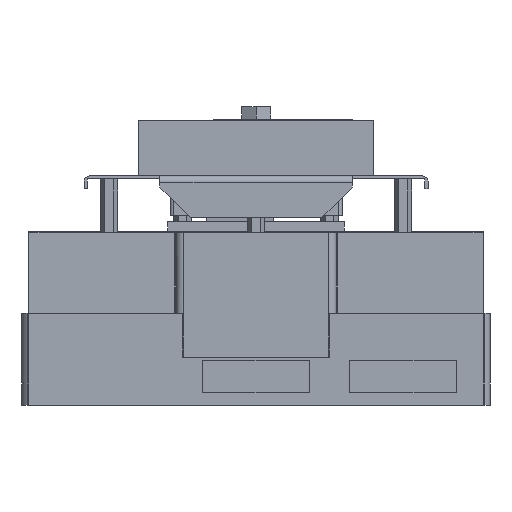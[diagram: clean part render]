
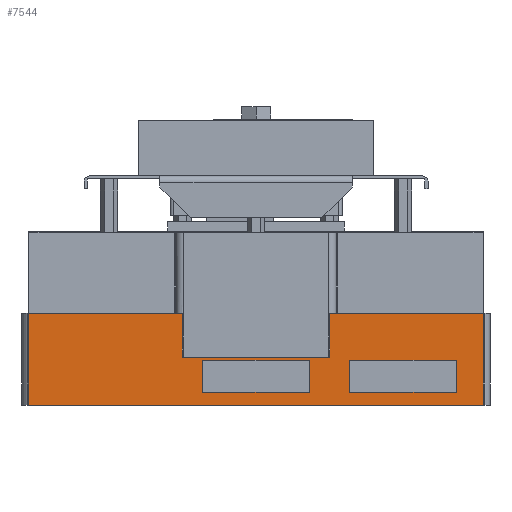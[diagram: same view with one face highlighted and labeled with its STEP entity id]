
A CAD part, front view. The second image highlights one B-rep face of the part: STEP entity #7544.
In plain terms, the highlighted planar face has unit normal (0, -1, 0).
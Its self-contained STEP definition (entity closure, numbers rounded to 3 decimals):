
#30 = CARTESIAN_POINT ( 'NONE',  ( 0., 0., 86. ) ) ;
#106 = CARTESIAN_POINT ( 'NONE',  ( 0., 0., 86. ) ) ;
#126 = VERTEX_POINT ( 'NONE', #3511 ) ;
#168 = LINE ( 'NONE', #4351, #803 ) ;
#240 = DIRECTION ( 'NONE',  ( 0., 0., 1. ) ) ;
#258 = DIRECTION ( 'NONE',  ( 0., 1., 0. ) ) ;
#302 = CARTESIAN_POINT ( 'NONE',  ( 281.3, 0., 45. ) ) ;
#348 = LINE ( 'NONE', #106, #8428 ) ;
#390 = PLANE ( 'NONE',  #4865 ) ;
#397 = EDGE_CURVE ( 'NONE', #3216, #7175, #8426, .T. ) ;
#467 = DIRECTION ( 'NONE',  ( 0., 0., 1. ) ) ;
#797 = EDGE_CURVE ( 'NONE', #5861, #126, #2017, .T. ) ;
#803 = VECTOR ( 'NONE', #1347, 1000. ) ;
#848 = ORIENTED_EDGE ( 'NONE', *, *, #4763, .T. ) ;
#933 = VERTEX_POINT ( 'NONE', #2014 ) ;
#952 = CARTESIAN_POINT ( 'NONE',  ( 425., 0., 315. ) ) ;
#980 = EDGE_CURVE ( 'NONE', #7313, #5861, #996, .T. ) ;
#996 = LINE ( 'NONE', #5904, #1218 ) ;
#1017 = DIRECTION ( 'NONE',  ( 0., 0., -1. ) ) ;
#1108 = EDGE_CURVE ( 'NONE', #126, #4538, #348, .T. ) ;
#1133 = EDGE_LOOP ( 'NONE', ( #4886, #848, #8056, #1267, #2413, #4866, #2860, #7813, #3504, #4652 ) ) ;
#1159 = VERTEX_POINT ( 'NONE', #4925 ) ;
#1218 = VECTOR ( 'NONE', #6437, 1000. ) ;
#1219 = LINE ( 'NONE', #6605, #2257 ) ;
#1267 = ORIENTED_EDGE ( 'NONE', *, *, #6893, .T. ) ;
#1274 = VERTEX_POINT ( 'NONE', #5766 ) ;
#1347 = DIRECTION ( 'NONE',  ( 0., 0., 1. ) ) ;
#1469 = EDGE_CURVE ( 'NONE', #5920, #7245, #2565, .T. ) ;
#1529 = DIRECTION ( 'NONE',  ( -1., 0., 0. ) ) ;
#1542 = DIRECTION ( 'NONE',  ( 0., 0., 1. ) ) ;
#1611 = VECTOR ( 'NONE', #3062, 1000. ) ;
#1613 = CARTESIAN_POINT ( 'NONE',  ( 262.5, 0., 12. ) ) ;
#1654 = CARTESIAN_POINT ( 'NONE',  ( 262.5, 0., 32. ) ) ;
#1673 = EDGE_CURVE ( 'NONE', #7167, #1274, #1943, .T. ) ;
#1817 = VECTOR ( 'NONE', #1542, 1000. ) ;
#1876 = EDGE_CURVE ( 'NONE', #7256, #8321, #2969, .T. ) ;
#1887 = CARTESIAN_POINT ( 'NONE',  ( 262.5, 0., 12. ) ) ;
#1911 = EDGE_CURVE ( 'NONE', #4477, #7167, #2973, .T. ) ;
#1943 = LINE ( 'NONE', #8865, #2056 ) ;
#1959 = CARTESIAN_POINT ( 'NONE',  ( 143.7, 0., 45. ) ) ;
#2014 = CARTESIAN_POINT ( 'NONE',  ( 425., 0., 86. ) ) ;
#2017 = LINE ( 'NONE', #3389, #1817 ) ;
#2056 = VECTOR ( 'NONE', #4144, 1000. ) ;
#2086 = VERTEX_POINT ( 'NONE', #1887 ) ;
#2172 = VECTOR ( 'NONE', #1529, 1000. ) ;
#2257 = VECTOR ( 'NONE', #3587, 1000. ) ;
#2359 = LINE ( 'NONE', #3706, #6428 ) ;
#2401 = DIRECTION ( 'NONE',  ( 0., 0., 1. ) ) ;
#2413 = ORIENTED_EDGE ( 'NONE', *, *, #1911, .T. ) ;
#2485 = EDGE_LOOP ( 'NONE', ( #7545, #3754, #3286, #2852 ) ) ;
#2541 = VECTOR ( 'NONE', #8165, 1000. ) ;
#2565 = LINE ( 'NONE', #6282, #2172 ) ;
#2598 = ORIENTED_EDGE ( 'NONE', *, *, #6460, .T. ) ;
#2621 = VECTOR ( 'NONE', #467, 1000. ) ;
#2738 = FACE_OUTER_BOUND ( 'NONE', #1133, .T. ) ;
#2772 = CARTESIAN_POINT ( 'NONE',  ( 162.5, 0., 32. ) ) ;
#2795 = ORIENTED_EDGE ( 'NONE', *, *, #3308, .F. ) ;
#2852 = ORIENTED_EDGE ( 'NONE', *, *, #6416, .T. ) ;
#2860 = ORIENTED_EDGE ( 'NONE', *, *, #4102, .F. ) ;
#2969 = LINE ( 'NONE', #3346, #2621 ) ;
#2973 = LINE ( 'NONE', #4594, #3010 ) ;
#3010 = VECTOR ( 'NONE', #3758, 1000. ) ;
#3059 = CARTESIAN_POINT ( 'NONE',  ( 425., 0., 86. ) ) ;
#3062 = DIRECTION ( 'NONE',  ( 1., 0., 0. ) ) ;
#3182 = LINE ( 'NONE', #1654, #1611 ) ;
#3216 = VERTEX_POINT ( 'NONE', #3473 ) ;
#3286 = ORIENTED_EDGE ( 'NONE', *, *, #3657, .T. ) ;
#3308 = EDGE_CURVE ( 'NONE', #2086, #3820, #3963, .T. ) ;
#3343 = CARTESIAN_POINT ( 'NONE',  ( 142.839, 0., 86. ) ) ;
#3346 = CARTESIAN_POINT ( 'NONE',  ( 162.5, 0., 12. ) ) ;
#3370 = LINE ( 'NONE', #3059, #4463 ) ;
#3389 = CARTESIAN_POINT ( 'NONE',  ( 281.3, 0., 45. ) ) ;
#3473 = CARTESIAN_POINT ( 'NONE',  ( 400., 0., 12. ) ) ;
#3495 = CARTESIAN_POINT ( 'NONE',  ( 262.5, 0., 32. ) ) ;
#3504 = ORIENTED_EDGE ( 'NONE', *, *, #1108, .F. ) ;
#3508 = LINE ( 'NONE', #7668, #6182 ) ;
#3511 = CARTESIAN_POINT ( 'NONE',  ( 281.3, 0., 86. ) ) ;
#3587 = DIRECTION ( 'NONE',  ( -1., 0., 0. ) ) ;
#3628 = DIRECTION ( 'NONE',  ( 0., 0., 1. ) ) ;
#3657 = EDGE_CURVE ( 'NONE', #6057, #1159, #3508, .T. ) ;
#3706 = CARTESIAN_POINT ( 'NONE',  ( 400., 0., 32. ) ) ;
#3754 = ORIENTED_EDGE ( 'NONE', *, *, #7523, .F. ) ;
#3758 = DIRECTION ( 'NONE',  ( 0., 0., -1. ) ) ;
#3796 = EDGE_CURVE ( 'NONE', #7256, #2086, #5618, .T. ) ;
#3820 = VERTEX_POINT ( 'NONE', #3495 ) ;
#3963 = LINE ( 'NONE', #1613, #4921 ) ;
#4102 = EDGE_CURVE ( 'NONE', #933, #1274, #6871, .T. ) ;
#4128 = ORIENTED_EDGE ( 'NONE', *, *, #1876, .T. ) ;
#4144 = DIRECTION ( 'NONE',  ( 1., 0., 0. ) ) ;
#4153 = CARTESIAN_POINT ( 'NONE',  ( 262.5, 0., 12. ) ) ;
#4351 = CARTESIAN_POINT ( 'NONE',  ( 143.7, 0., 45. ) ) ;
#4368 = EDGE_CURVE ( 'NONE', #933, #4538, #1219, .T. ) ;
#4393 = CARTESIAN_POINT ( 'NONE',  ( 282.161, 0., 86. ) ) ;
#4463 = VECTOR ( 'NONE', #4889, 1000. ) ;
#4477 = VERTEX_POINT ( 'NONE', #30 ) ;
#4538 = VERTEX_POINT ( 'NONE', #4393 ) ;
#4594 = CARTESIAN_POINT ( 'NONE',  ( 0., 0., 315. ) ) ;
#4652 = ORIENTED_EDGE ( 'NONE', *, *, #797, .F. ) ;
#4763 = EDGE_CURVE ( 'NONE', #7313, #5920, #168, .T. ) ;
#4764 = FACE_BOUND ( 'NONE', #8646, .T. ) ;
#4865 = AXIS2_PLACEMENT_3D ( 'NONE', #7698, #258, #240 ) ;
#4866 = ORIENTED_EDGE ( 'NONE', *, *, #1673, .T. ) ;
#4886 = ORIENTED_EDGE ( 'NONE', *, *, #980, .F. ) ;
#4889 = DIRECTION ( 'NONE',  ( -1., 0., 0. ) ) ;
#4921 = VECTOR ( 'NONE', #2401, 1000. ) ;
#4925 = CARTESIAN_POINT ( 'NONE',  ( 300., 0., 32. ) ) ;
#5045 = DIRECTION ( 'NONE',  ( 1., 0., 0. ) ) ;
#5202 = FACE_BOUND ( 'NONE', #2485, .T. ) ;
#5354 = ORIENTED_EDGE ( 'NONE', *, *, #3796, .F. ) ;
#5511 = VECTOR ( 'NONE', #5611, 1000. ) ;
#5611 = DIRECTION ( 'NONE',  ( 1., 0., 0. ) ) ;
#5618 = LINE ( 'NONE', #4153, #5511 ) ;
#5735 = CARTESIAN_POINT ( 'NONE',  ( 400., 0., 32. ) ) ;
#5766 = CARTESIAN_POINT ( 'NONE',  ( 425., 0., 0. ) ) ;
#5861 = VERTEX_POINT ( 'NONE', #302 ) ;
#5904 = CARTESIAN_POINT ( 'NONE',  ( 143.7, 0., 45. ) ) ;
#5920 = VERTEX_POINT ( 'NONE', #8905 ) ;
#6057 = VERTEX_POINT ( 'NONE', #7083 ) ;
#6182 = VECTOR ( 'NONE', #7032, 1000. ) ;
#6282 = CARTESIAN_POINT ( 'NONE',  ( 425., 0., 86. ) ) ;
#6416 = EDGE_CURVE ( 'NONE', #1159, #7175, #2359, .T. ) ;
#6428 = VECTOR ( 'NONE', #5045, 1000. ) ;
#6437 = DIRECTION ( 'NONE',  ( 1., 0., 0. ) ) ;
#6460 = EDGE_CURVE ( 'NONE', #8321, #3820, #3182, .T. ) ;
#6542 = VECTOR ( 'NONE', #1017, 1000. ) ;
#6605 = CARTESIAN_POINT ( 'NONE',  ( 425., 0., 86. ) ) ;
#6745 = CARTESIAN_POINT ( 'NONE',  ( 0., 0., 0. ) ) ;
#6871 = LINE ( 'NONE', #952, #6542 ) ;
#6883 = CARTESIAN_POINT ( 'NONE',  ( 162.5, 0., 12. ) ) ;
#6893 = EDGE_CURVE ( 'NONE', #7245, #4477, #3370, .T. ) ;
#6895 = DIRECTION ( 'NONE',  ( 1., 0., 0. ) ) ;
#7032 = DIRECTION ( 'NONE',  ( 0., 0., 1. ) ) ;
#7083 = CARTESIAN_POINT ( 'NONE',  ( 300., 0., 12. ) ) ;
#7167 = VERTEX_POINT ( 'NONE', #6745 ) ;
#7175 = VERTEX_POINT ( 'NONE', #5735 ) ;
#7245 = VERTEX_POINT ( 'NONE', #3343 ) ;
#7256 = VERTEX_POINT ( 'NONE', #6883 ) ;
#7313 = VERTEX_POINT ( 'NONE', #1959 ) ;
#7523 = EDGE_CURVE ( 'NONE', #6057, #3216, #7817, .T. ) ;
#7544 = ADVANCED_FACE ( 'NONE', ( #2738, #4764, #5202 ), #390, .F. ) ;
#7545 = ORIENTED_EDGE ( 'NONE', *, *, #397, .F. ) ;
#7668 = CARTESIAN_POINT ( 'NONE',  ( 300., 0., 12. ) ) ;
#7698 = CARTESIAN_POINT ( 'NONE',  ( 0., 0., 315. ) ) ;
#7813 = ORIENTED_EDGE ( 'NONE', *, *, #4368, .T. ) ;
#7817 = LINE ( 'NONE', #8009, #2541 ) ;
#8009 = CARTESIAN_POINT ( 'NONE',  ( 400., 0., 12. ) ) ;
#8056 = ORIENTED_EDGE ( 'NONE', *, *, #1469, .T. ) ;
#8165 = DIRECTION ( 'NONE',  ( 1., 0., 0. ) ) ;
#8321 = VERTEX_POINT ( 'NONE', #2772 ) ;
#8343 = VECTOR ( 'NONE', #3628, 1000. ) ;
#8426 = LINE ( 'NONE', #8803, #8343 ) ;
#8428 = VECTOR ( 'NONE', #6895, 1000. ) ;
#8646 = EDGE_LOOP ( 'NONE', ( #2795, #5354, #4128, #2598 ) ) ;
#8803 = CARTESIAN_POINT ( 'NONE',  ( 400., 0., 12. ) ) ;
#8865 = CARTESIAN_POINT ( 'NONE',  ( 0., 0., 0. ) ) ;
#8905 = CARTESIAN_POINT ( 'NONE',  ( 143.7, 0., 86. ) ) ;
